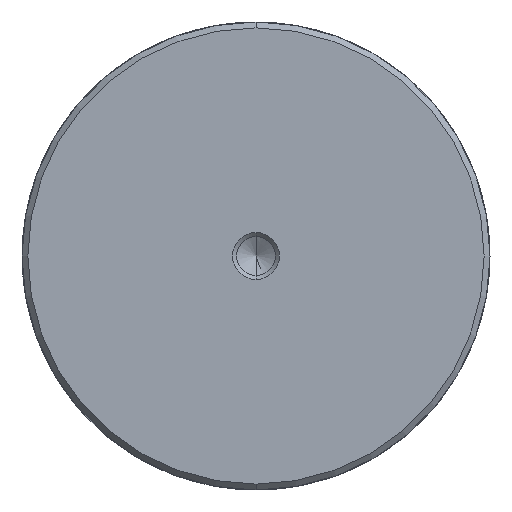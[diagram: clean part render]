
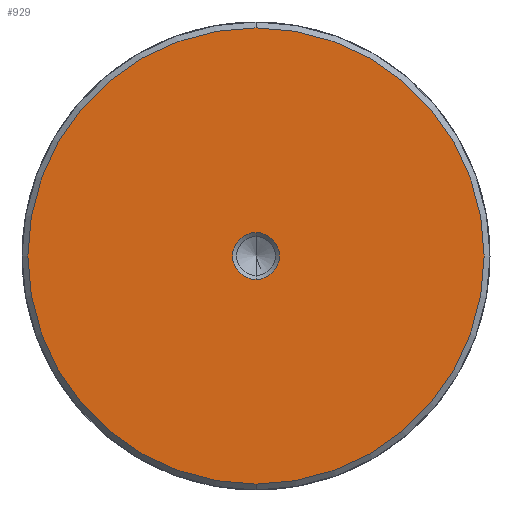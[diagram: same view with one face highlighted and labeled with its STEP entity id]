
A CAD part, left-side view. The second image highlights one B-rep face of the part: STEP entity #929.
In plain terms, the highlighted planar face has unit normal (-1, 0, 0).
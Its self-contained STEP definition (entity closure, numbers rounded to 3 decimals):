
#827=CARTESIAN_POINT('Vertex',(0.,0.,-39.)) ;
#830=CARTESIAN_POINT('Axis2P3D Location',(0.,0.,0.)) ;
#834=CARTESIAN_POINT('Vertex',(0.,39.,0.)) ;
#837=CARTESIAN_POINT('Axis2P3D Location',(0.,0.,0.)) ;
#841=CARTESIAN_POINT('Vertex',(0.,0.,39.)) ;
#863=CARTESIAN_POINT('Axis2P3D Location',(0.,0.,0.)) ;
#867=CARTESIAN_POINT('Vertex',(0.,-39.,0.)) ;
#870=CARTESIAN_POINT('Axis2P3D Location',(0.,0.,0.)) ;
#884=CARTESIAN_POINT('Axis2P3D Location',(0.,0.,0.)) ;
#895=CARTESIAN_POINT('Axis2P3D Location',(0.,0.,0.)) ;
#899=CARTESIAN_POINT('Vertex',(0.,4.,0.)) ;
#901=CARTESIAN_POINT('Vertex',(0.,0.,4.)) ;
#904=CARTESIAN_POINT('Axis2P3D Location',(0.,0.,0.)) ;
#908=CARTESIAN_POINT('Vertex',(0.,-4.,0.)) ;
#911=CARTESIAN_POINT('Axis2P3D Location',(0.,0.,0.)) ;
#915=CARTESIAN_POINT('Vertex',(0.,0.,-4.)) ;
#918=CARTESIAN_POINT('Axis2P3D Location',(0.,0.,0.)) ;
#831=DIRECTION('Axis2P3D Direction',(1.,0.,-0.)) ;
#838=DIRECTION('Axis2P3D Direction',(1.,0.,-0.)) ;
#864=DIRECTION('Axis2P3D Direction',(1.,0.,-0.)) ;
#871=DIRECTION('Axis2P3D Direction',(1.,0.,-0.)) ;
#885=DIRECTION('Axis2P3D Direction',(1.,0.,-0.)) ;
#886=DIRECTION('Axis2P3D XDirection',(-0.,0.,-1.)) ;
#896=DIRECTION('Axis2P3D Direction',(1.,0.,-0.)) ;
#905=DIRECTION('Axis2P3D Direction',(1.,0.,-0.)) ;
#912=DIRECTION('Axis2P3D Direction',(1.,0.,-0.)) ;
#919=DIRECTION('Axis2P3D Direction',(1.,0.,-0.)) ;
#832=AXIS2_PLACEMENT_3D('Circle Axis2P3D',#830,#831,$) ;
#839=AXIS2_PLACEMENT_3D('Circle Axis2P3D',#837,#838,$) ;
#865=AXIS2_PLACEMENT_3D('Circle Axis2P3D',#863,#864,$) ;
#872=AXIS2_PLACEMENT_3D('Circle Axis2P3D',#870,#871,$) ;
#887=AXIS2_PLACEMENT_3D('Plane Axis2P3D',#884,#885,#886) ;
#897=AXIS2_PLACEMENT_3D('Circle Axis2P3D',#895,#896,$) ;
#906=AXIS2_PLACEMENT_3D('Circle Axis2P3D',#904,#905,$) ;
#913=AXIS2_PLACEMENT_3D('Circle Axis2P3D',#911,#912,$) ;
#920=AXIS2_PLACEMENT_3D('Circle Axis2P3D',#918,#919,$) ;
#890=ORIENTED_EDGE('',*,*,#836,.F.) ;
#891=ORIENTED_EDGE('',*,*,#874,.F.) ;
#892=ORIENTED_EDGE('',*,*,#869,.F.) ;
#893=ORIENTED_EDGE('',*,*,#843,.F.) ;
#924=ORIENTED_EDGE('',*,*,#903,.T.) ;
#925=ORIENTED_EDGE('',*,*,#910,.T.) ;
#926=ORIENTED_EDGE('',*,*,#917,.T.) ;
#927=ORIENTED_EDGE('',*,*,#922,.T.) ;
#928=FACE_BOUND('',#923,.T.) ;
#929=ADVANCED_FACE('720-80x600',(#894,#928),#888,.F.) ;
#833=CIRCLE('generated circle',#832,39.) ;
#840=CIRCLE('generated circle',#839,39.) ;
#866=CIRCLE('generated circle',#865,39.) ;
#873=CIRCLE('generated circle',#872,39.) ;
#898=CIRCLE('generated circle',#897,4.) ;
#907=CIRCLE('generated circle',#906,4.) ;
#914=CIRCLE('generated circle',#913,4.) ;
#921=CIRCLE('generated circle',#920,4.) ;
#836=EDGE_CURVE('',#828,#835,#833,.T.) ;
#843=EDGE_CURVE('',#835,#842,#840,.T.) ;
#869=EDGE_CURVE('',#842,#868,#866,.T.) ;
#874=EDGE_CURVE('',#868,#828,#873,.T.) ;
#903=EDGE_CURVE('',#900,#902,#898,.T.) ;
#910=EDGE_CURVE('',#902,#909,#907,.T.) ;
#917=EDGE_CURVE('',#909,#916,#914,.T.) ;
#922=EDGE_CURVE('',#916,#900,#921,.T.) ;
#889=EDGE_LOOP('',(#890,#891,#892,#893)) ;
#923=EDGE_LOOP('',(#924,#925,#926,#927)) ;
#894=FACE_OUTER_BOUND('',#889,.T.) ;
#888=PLANE('Plane',#887) ;
#828=VERTEX_POINT('',#827) ;
#835=VERTEX_POINT('',#834) ;
#842=VERTEX_POINT('',#841) ;
#868=VERTEX_POINT('',#867) ;
#900=VERTEX_POINT('',#899) ;
#902=VERTEX_POINT('',#901) ;
#909=VERTEX_POINT('',#908) ;
#916=VERTEX_POINT('',#915) ;
